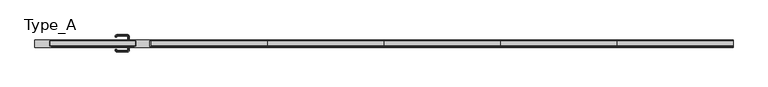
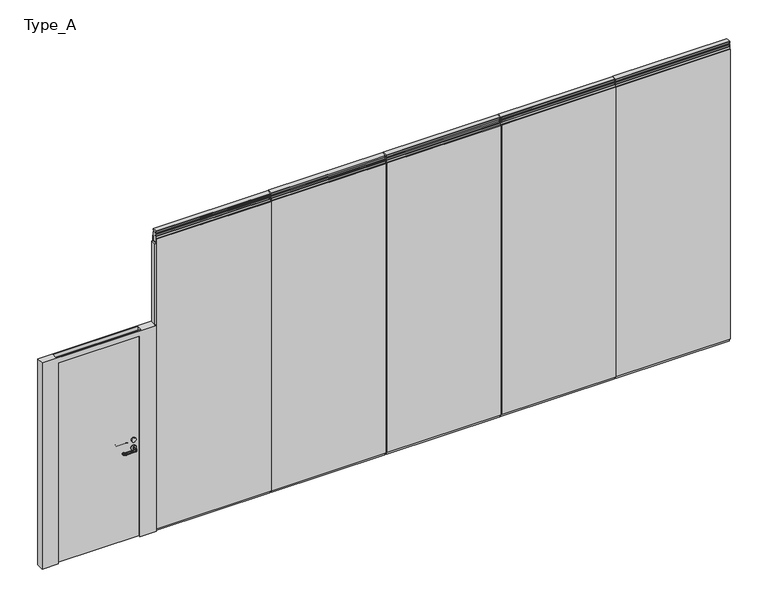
"""IFC4 building model written with IfcOpenShell, lengths in millimetres: proxy geometry, Planner Wall フラッシュパネル(Door) : Type_A."""

from ifc_helpers import new_model, si_unit, point, frame, frame_2d, origin, origin_with_axes, place, context, project, spatial, polyline, circle_curve, ellipse_curve, trimmed, segment, composite_curve, outline, extrude, faceted_brep, source, transform, mapped, element, save
from ifc_brep_helpers import plane_surface, cylinder_surface, revolved_surface, advanced_brep


def type_a_b0c5d881(model_context):
    return source(origin(), model_context, "Body", "SolidModel", [
        extrude(outline(polyline([(2226.3571429, 25.0), (1127.9285714, 25.0), (1127.9285714, 35.0), (2226.3571429, 35.0), (2226.3571429, 25.0)])), frame((0.0, 0.0, 25.0), z_axis=(0.0, 0.0, 1.0), x_axis=(1.0, 0.0, 0.0)), (0.0, 0.0, 1.0), 2950.0),
        extrude(outline(polyline([(2226.3571429, -35.0), (1127.9285714, -35.0), (1127.9285714, -25.0), (2226.3571429, -25.0), (2226.3571429, -35.0)])), frame((0.0, 0.0, 25.0), z_axis=(0.0, 0.0, 1.0), x_axis=(1.0, 0.0, 0.0)), (0.0, 0.0, 1.0), 2950.0),
        extrude(outline(polyline([(1127.9285714, -25.0), (1127.9285714, 25.0), (2220.8571429, 25.0), (2220.8571429, -25.0), (1127.9285714, -25.0)])), origin_with_axes(), (0.0, 0.0, 1.0), 65.0),
        extrude(outline(composite_curve([segment(polyline([(23.5, 3050.1000003), (26.5, 3047.1000003), (26.5, 3032.6)]), True, "CONTINUOUS"), segment(trimmed(circle_curve(frame_2d((25.0, 3032.6)), 1.5), [point((26.5, 3032.6))], [point((25.0, 3031.1))], False, "CARTESIAN"), True, "CONTINUOUS"), segment(polyline([(25.0, 3031.1), (9.0, 3031.1), (9.0, 3019.1000003), (23.5, 3019.1000003), (26.5, 3016.1000003), (26.5, 3001.5)]), True, "CONTINUOUS"), segment(trimmed(circle_curve(frame_2d((25.0, 3001.5)), 1.5), [point((26.5, 3001.5))], [point((25.0, 3000.0))], False, "CARTESIAN"), True, "CONTINUOUS"), segment(polyline([(25.0, 3000.0), (7.5, 3000.0), (7.5, 2994.5), (25.0, 2994.5), (25.0, 2935.0), (-25.0, 2935.0), (-25.0, 2994.5), (-7.5, 2994.5), (-7.5, 3000.0), (-25.0, 3000.0)]), True, "CONTINUOUS"), segment(trimmed(circle_curve(frame_2d((-25.0, 3001.5)), 1.5), [point((-25.0, 3000.0))], [point((-26.5, 3001.5))], False, "CARTESIAN"), True, "CONTINUOUS"), segment(polyline([(-26.5, 3001.5), (-26.5, 3016.1000003), (-23.5, 3019.1000003), (-9.0, 3019.1000003), (-9.0, 3031.1), (-25.0, 3031.1)]), True, "CONTINUOUS"), segment(trimmed(circle_curve(frame_2d((-25.0, 3032.6)), 1.5), [point((-25.0, 3031.1))], [point((-26.5, 3032.6))], False, "CARTESIAN"), True, "CONTINUOUS"), segment(polyline([(-26.5, 3032.6), (-26.5, 3047.1000003), (-23.5, 3050.1000003), (23.5, 3050.1000003)]), True, "CONTINUOUS")], self_intersect=False)), frame((1127.9285714, 0.0, 0.0), z_axis=(1.0, 0.0, 0.0), x_axis=(0.0, 1.0, 0.0)), (0.0, 0.0, 1.0), 1098.4285714),
        extrude(outline(polyline([(1114.4285714, -25.0), (1114.4285714, 25.0), (1127.9285714, 25.0), (1127.9285714, -25.0), (1114.4285714, -25.0)])), frame((0.0, 0.0, 53.0), z_axis=(0.0, 0.0, 1.0), x_axis=(1.0, 0.0, 0.0)), (0.0, 0.0, 1.0), 2869.0),
        extrude(outline(polyline([(3332.7857143, 25.0), (2234.3571429, 25.0), (2234.3571429, 35.0), (3332.7857143, 35.0), (3332.7857143, 25.0)])), frame((0.0, 0.0, 25.0), z_axis=(0.0, 0.0, 1.0), x_axis=(1.0, 0.0, 0.0)), (0.0, 0.0, 1.0), 2950.0),
        extrude(outline(polyline([(3332.7857143, -35.0), (2234.3571429, -35.0), (2234.3571429, -25.0), (3332.7857143, -25.0), (3332.7857143, -35.0)])), frame((0.0, 0.0, 25.0), z_axis=(0.0, 0.0, 1.0), x_axis=(1.0, 0.0, 0.0)), (0.0, 0.0, 1.0), 2950.0),
        extrude(outline(polyline([(2234.3571429, -25.0), (2234.3571429, 25.0), (3327.2857143, 25.0), (3327.2857143, -25.0), (2234.3571429, -25.0)])), origin_with_axes(), (0.0, 0.0, 1.0), 65.0),
        extrude(outline(composite_curve([segment(polyline([(23.5, 3050.1000003), (26.5, 3047.1000003), (26.5, 3032.6)]), True, "CONTINUOUS"), segment(trimmed(circle_curve(frame_2d((25.0, 3032.6)), 1.5), [point((26.5, 3032.6))], [point((25.0, 3031.1))], False, "CARTESIAN"), True, "CONTINUOUS"), segment(polyline([(25.0, 3031.1), (9.0, 3031.1), (9.0, 3019.1000003), (23.5, 3019.1000003), (26.5, 3016.1000003), (26.5, 3001.5)]), True, "CONTINUOUS"), segment(trimmed(circle_curve(frame_2d((25.0, 3001.5)), 1.5), [point((26.5, 3001.5))], [point((25.0, 3000.0))], False, "CARTESIAN"), True, "CONTINUOUS"), segment(polyline([(25.0, 3000.0), (7.5, 3000.0), (7.5, 2994.5), (25.0, 2994.5), (25.0, 2935.0), (-25.0, 2935.0), (-25.0, 2994.5), (-7.5, 2994.5), (-7.5, 3000.0), (-25.0, 3000.0)]), True, "CONTINUOUS"), segment(trimmed(circle_curve(frame_2d((-25.0, 3001.5)), 1.5), [point((-25.0, 3000.0))], [point((-26.5, 3001.5))], False, "CARTESIAN"), True, "CONTINUOUS"), segment(polyline([(-26.5, 3001.5), (-26.5, 3016.1000003), (-23.5, 3019.1000003), (-9.0, 3019.1000003), (-9.0, 3031.1), (-25.0, 3031.1)]), True, "CONTINUOUS"), segment(trimmed(circle_curve(frame_2d((-25.0, 3032.6)), 1.5), [point((-25.0, 3031.1))], [point((-26.5, 3032.6))], False, "CARTESIAN"), True, "CONTINUOUS"), segment(polyline([(-26.5, 3032.6), (-26.5, 3047.1000003), (-23.5, 3050.1000003), (23.5, 3050.1000003)]), True, "CONTINUOUS")], self_intersect=False)), frame((2234.3571429, 0.0, 0.0), z_axis=(1.0, 0.0, 0.0), x_axis=(0.0, 1.0, 0.0)), (0.0, 0.0, 1.0), 1098.4285714),
        extrude(outline(polyline([(2220.8571429, -25.0), (2220.8571429, 25.0), (2234.3571429, 25.0), (2234.3571429, -25.0), (2220.8571429, -25.0)])), frame((0.0, 0.0, 53.0), z_axis=(0.0, 0.0, 1.0), x_axis=(1.0, 0.0, 0.0)), (0.0, 0.0, 1.0), 2869.0),
        extrude(outline(polyline([(4439.2142857, 25.0), (3340.7857143, 25.0), (3340.7857143, 35.0), (4439.2142857, 35.0), (4439.2142857, 25.0)])), frame((0.0, 0.0, 25.0), z_axis=(0.0, 0.0, 1.0), x_axis=(1.0, 0.0, 0.0)), (0.0, 0.0, 1.0), 2950.0),
        extrude(outline(polyline([(4439.2142857, -35.0), (3340.7857143, -35.0), (3340.7857143, -25.0), (4439.2142857, -25.0), (4439.2142857, -35.0)])), frame((0.0, 0.0, 25.0), z_axis=(0.0, 0.0, 1.0), x_axis=(1.0, 0.0, 0.0)), (0.0, 0.0, 1.0), 2950.0),
        extrude(outline(polyline([(3340.7857143, -25.0), (3340.7857143, 25.0), (4433.7142857, 25.0), (4433.7142857, -25.0), (3340.7857143, -25.0)])), origin_with_axes(), (0.0, 0.0, 1.0), 65.0),
        extrude(outline(composite_curve([segment(polyline([(23.5, 3050.1000003), (26.5, 3047.1000003), (26.5, 3032.6)]), True, "CONTINUOUS"), segment(trimmed(circle_curve(frame_2d((25.0, 3032.6)), 1.5), [point((26.5, 3032.6))], [point((25.0, 3031.1))], False, "CARTESIAN"), True, "CONTINUOUS"), segment(polyline([(25.0, 3031.1), (9.0, 3031.1), (9.0, 3019.1000003), (23.5, 3019.1000003), (26.5, 3016.1000003), (26.5, 3001.5)]), True, "CONTINUOUS"), segment(trimmed(circle_curve(frame_2d((25.0, 3001.5)), 1.5), [point((26.5, 3001.5))], [point((25.0, 3000.0))], False, "CARTESIAN"), True, "CONTINUOUS"), segment(polyline([(25.0, 3000.0), (7.5, 3000.0), (7.5, 2994.5), (25.0, 2994.5), (25.0, 2935.0), (-25.0, 2935.0), (-25.0, 2994.5), (-7.5, 2994.5), (-7.5, 3000.0), (-25.0, 3000.0)]), True, "CONTINUOUS"), segment(trimmed(circle_curve(frame_2d((-25.0, 3001.5)), 1.5), [point((-25.0, 3000.0))], [point((-26.5, 3001.5))], False, "CARTESIAN"), True, "CONTINUOUS"), segment(polyline([(-26.5, 3001.5), (-26.5, 3016.1000003), (-23.5, 3019.1000003), (-9.0, 3019.1000003), (-9.0, 3031.1), (-25.0, 3031.1)]), True, "CONTINUOUS"), segment(trimmed(circle_curve(frame_2d((-25.0, 3032.6)), 1.5), [point((-25.0, 3031.1))], [point((-26.5, 3032.6))], False, "CARTESIAN"), True, "CONTINUOUS"), segment(polyline([(-26.5, 3032.6), (-26.5, 3047.1000003), (-23.5, 3050.1000003), (23.5, 3050.1000003)]), True, "CONTINUOUS")], self_intersect=False)), frame((3340.7857143, 0.0, 0.0), z_axis=(1.0, 0.0, 0.0), x_axis=(0.0, 1.0, 0.0)), (0.0, 0.0, 1.0), 1098.4285714),
        extrude(outline(polyline([(3327.2857143, -25.0), (3327.2857143, 25.0), (3340.7857143, 25.0), (3340.7857143, -25.0), (3327.2857143, -25.0)])), frame((0.0, 0.0, 53.0), z_axis=(0.0, 0.0, 1.0), x_axis=(1.0, 0.0, 0.0)), (0.0, 0.0, 1.0), 2869.0),
        extrude(outline(polyline([(5545.6428571, 25.0), (4447.2142857, 25.0), (4447.2142857, 35.0), (5545.6428571, 35.0), (5545.6428571, 25.0)])), frame((0.0, 0.0, 25.0), z_axis=(0.0, 0.0, 1.0), x_axis=(1.0, 0.0, 0.0)), (0.0, 0.0, 1.0), 2950.0),
        extrude(outline(polyline([(5545.6428571, -35.0), (4447.2142857, -35.0), (4447.2142857, -25.0), (5545.6428571, -25.0), (5545.6428571, -35.0)])), frame((0.0, 0.0, 25.0), z_axis=(0.0, 0.0, 1.0), x_axis=(1.0, 0.0, 0.0)), (0.0, 0.0, 1.0), 2950.0),
        extrude(outline(polyline([(4447.2142857, -25.0), (4447.2142857, 25.0), (5540.1428571, 25.0), (5540.1428571, -25.0), (4447.2142857, -25.0)])), origin_with_axes(), (0.0, 0.0, 1.0), 65.0),
        extrude(outline(composite_curve([segment(polyline([(23.5, 3050.1000003), (26.5, 3047.1000003), (26.5, 3032.6)]), True, "CONTINUOUS"), segment(trimmed(circle_curve(frame_2d((25.0, 3032.6)), 1.5), [point((26.5, 3032.6))], [point((25.0, 3031.1))], False, "CARTESIAN"), True, "CONTINUOUS"), segment(polyline([(25.0, 3031.1), (9.0, 3031.1), (9.0, 3019.1000003), (23.5, 3019.1000003), (26.5, 3016.1000003), (26.5, 3001.5)]), True, "CONTINUOUS"), segment(trimmed(circle_curve(frame_2d((25.0, 3001.5)), 1.5), [point((26.5, 3001.5))], [point((25.0, 3000.0))], False, "CARTESIAN"), True, "CONTINUOUS"), segment(polyline([(25.0, 3000.0), (7.5, 3000.0), (7.5, 2994.5), (25.0, 2994.5), (25.0, 2935.0), (-25.0, 2935.0), (-25.0, 2994.5), (-7.5, 2994.5), (-7.5, 3000.0), (-25.0, 3000.0)]), True, "CONTINUOUS"), segment(trimmed(circle_curve(frame_2d((-25.0, 3001.5)), 1.5), [point((-25.0, 3000.0))], [point((-26.5, 3001.5))], False, "CARTESIAN"), True, "CONTINUOUS"), segment(polyline([(-26.5, 3001.5), (-26.5, 3016.1000003), (-23.5, 3019.1000003), (-9.0, 3019.1000003), (-9.0, 3031.1), (-25.0, 3031.1)]), True, "CONTINUOUS"), segment(trimmed(circle_curve(frame_2d((-25.0, 3032.6)), 1.5), [point((-25.0, 3031.1))], [point((-26.5, 3032.6))], False, "CARTESIAN"), True, "CONTINUOUS"), segment(polyline([(-26.5, 3032.6), (-26.5, 3047.1000003), (-23.5, 3050.1000003), (23.5, 3050.1000003)]), True, "CONTINUOUS")], self_intersect=False)), frame((4447.2142857, 0.0, 0.0), z_axis=(1.0, 0.0, 0.0), x_axis=(0.0, 1.0, 0.0)), (0.0, 0.0, 1.0), 1098.4285714),
        extrude(outline(polyline([(4433.7142857, -25.0), (4433.7142857, 25.0), (4447.2142857, 25.0), (4447.2142857, -25.0), (4433.7142857, -25.0)])), frame((0.0, 0.0, 53.0), z_axis=(0.0, 0.0, 1.0), x_axis=(1.0, 0.0, 0.0)), (0.0, 0.0, 1.0), 2869.0),
        extrude(outline(polyline([(6652.0714286, 25.0), (5553.6428571, 25.0), (5553.6428571, 35.0), (6652.0714286, 35.0), (6652.0714286, 25.0)])), frame((0.0, 0.0, 25.0), z_axis=(0.0, 0.0, 1.0), x_axis=(1.0, 0.0, 0.0)), (0.0, 0.0, 1.0), 2950.0),
        extrude(outline(polyline([(6652.0714286, -35.0), (5553.6428571, -35.0), (5553.6428571, -25.0), (6652.0714286, -25.0), (6652.0714286, -35.0)])), frame((0.0, 0.0, 25.0), z_axis=(0.0, 0.0, 1.0), x_axis=(1.0, 0.0, 0.0)), (0.0, 0.0, 1.0), 2950.0),
        extrude(outline(polyline([(5553.6428571, -25.0), (5553.6428571, 25.0), (6646.5714286, 25.0), (6646.5714286, -25.0), (5553.6428571, -25.0)])), origin_with_axes(), (0.0, 0.0, 1.0), 65.0),
        extrude(outline(composite_curve([segment(polyline([(23.5, 3050.1000003), (26.5, 3047.1000003), (26.5, 3032.6)]), True, "CONTINUOUS"), segment(trimmed(circle_curve(frame_2d((25.0, 3032.6)), 1.5), [point((26.5, 3032.6))], [point((25.0, 3031.1))], False, "CARTESIAN"), True, "CONTINUOUS"), segment(polyline([(25.0, 3031.1), (9.0, 3031.1), (9.0, 3019.1000003), (23.5, 3019.1000003), (26.5, 3016.1000003), (26.5, 3001.5)]), True, "CONTINUOUS"), segment(trimmed(circle_curve(frame_2d((25.0, 3001.5)), 1.5), [point((26.5, 3001.5))], [point((25.0, 3000.0))], False, "CARTESIAN"), True, "CONTINUOUS"), segment(polyline([(25.0, 3000.0), (7.5, 3000.0), (7.5, 2994.5), (25.0, 2994.5), (25.0, 2935.0), (-25.0, 2935.0), (-25.0, 2994.5), (-7.5, 2994.5), (-7.5, 3000.0), (-25.0, 3000.0)]), True, "CONTINUOUS"), segment(trimmed(circle_curve(frame_2d((-25.0, 3001.5)), 1.5), [point((-25.0, 3000.0))], [point((-26.5, 3001.5))], False, "CARTESIAN"), True, "CONTINUOUS"), segment(polyline([(-26.5, 3001.5), (-26.5, 3016.1000003), (-23.5, 3019.1000003), (-9.0, 3019.1000003), (-9.0, 3031.1), (-25.0, 3031.1)]), True, "CONTINUOUS"), segment(trimmed(circle_curve(frame_2d((-25.0, 3032.6)), 1.5), [point((-25.0, 3031.1))], [point((-26.5, 3032.6))], False, "CARTESIAN"), True, "CONTINUOUS"), segment(polyline([(-26.5, 3032.6), (-26.5, 3047.1000003), (-23.5, 3050.1000003), (23.5, 3050.1000003)]), True, "CONTINUOUS")], self_intersect=False)), frame((5553.6428571, 0.0, 0.0), z_axis=(1.0, 0.0, 0.0), x_axis=(0.0, 1.0, 0.0)), (0.0, 0.0, 1.0), 1098.4285714),
        extrude(outline(polyline([(5540.1428571, -25.0), (5540.1428571, 25.0), (5553.6428571, 25.0), (5553.6428571, -25.0), (5540.1428571, -25.0)])), frame((0.0, 0.0, 53.0), z_axis=(0.0, 0.0, 1.0), x_axis=(1.0, 0.0, 0.0)), (0.0, 0.0, 1.0), 2869.0),
        extrude(outline(composite_curve([segment(trimmed(circle_curve(frame_2d((1000.0, 909.9285714)), 22.0), [point((1000.0, 931.9285714))], [point((1000.0, 887.9285714))], False, "CARTESIAN"), True, "CONTINUOUS"), segment(trimmed(circle_curve(frame_2d((1000.0, 909.9285714)), 22.0), [point((1000.0, 887.9285714))], [point((1000.0, 931.9285714))], False, "CARTESIAN"), True, "CONTINUOUS")], self_intersect=False)), frame((0.0, 23.5, 0.0), z_axis=(0.0, 1.0, 0.0), x_axis=(0.0, 0.0, 1.0)), (0.0, 0.0, 1.0), 10.0),
        extrude(outline(composite_curve([segment(trimmed(circle_curve(frame_2d((1000.0, 909.9285714)), 22.0), [point((1000.0, 931.9285714))], [point((1000.0, 887.9285714))], False, "CARTESIAN"), True, "CONTINUOUS"), segment(trimmed(circle_curve(frame_2d((1000.0, 909.9285714)), 22.0), [point((1000.0, 887.9285714))], [point((1000.0, 931.9285714))], False, "CARTESIAN"), True, "CONTINUOUS")], self_intersect=False)), frame((0.0, -26.5, 0.0), z_axis=(0.0, 1.0, 0.0), x_axis=(0.0, 0.0, 1.0)), (0.0, 0.0, 1.0), 10.0),
        advanced_brep(
        [(911.9285714, 33.5, 930.0), (907.9285714, 33.5, 930.0), (902.9285714, 33.5, 925.0), (902.9285714, 33.5, 915.0477623), (907.9285714, 33.5, 910.0477623), (911.9285714, 33.5, 910.0477623), (916.9285714, 33.5, 915.0477623), (916.9285714, 33.5, 925.0), (916.9285714, 68.5, 925.0), (911.9285714, 68.5, 930.0), (916.9285714, 68.5, 915.0477623), (911.9285714, 68.5, 910.0477623), (907.9285714, 68.5, 910.0477623), (899.9285714, 76.5, 910.0477623), (799.9285714, 76.5, 910.0477623), (791.9285714, 68.5, 910.0477623), (791.9285714, 63.5, 910.0477623), (787.9285714, 63.5, 910.0477623), (787.9285714, 68.5, 910.0477623), (799.9285714, 80.5, 910.0477623), (899.9285714, 80.5, 910.0477623), (902.9285714, 68.5, 915.0477623), (902.9285714, 68.5, 925.0), (907.9285714, 68.5, 930.0), (899.9285714, 80.5, 930.0), (799.9285714, 80.5, 930.0), (787.9285714, 68.5, 930.0), (787.9285714, 63.5, 930.0), (791.9285714, 63.5, 930.0), (791.9285714, 68.5, 930.0), (799.9285714, 76.5, 930.0), (899.9285714, 76.5, 930.0), (899.9285714, 85.5, 925.0), (899.9285714, 85.5, 915.0477623), (899.9285714, 71.5, 915.0477623), (899.9285714, 71.5, 925.0), (799.9285714, 85.5, 925.0), (799.9285714, 85.5, 915.0477623), (799.9285714, 71.5, 915.0477623), (799.9285714, 71.5, 925.0), (782.9285714, 68.5, 925.0), (782.9285714, 68.5, 915.0477623), (796.9285714, 68.5, 915.0477623), (796.9285714, 68.5, 925.0), (782.9285714, 63.5, 925.0), (782.9285714, 63.5, 915.0477623), (796.9285714, 63.5, 915.0477623), (796.9285714, 63.5, 925.0)],
        [
            (0, 1),
            (1, 2, circle_curve(frame((907.9285714, 33.5, 925.0), z_axis=(0.0, -1.0, 0.0), x_axis=(1.0, 0.0, 0.0)), 5.0)),
            (2, 3),
            (3, 4, circle_curve(frame((907.9285714, 33.5, 915.0477623), z_axis=(0.0, -1.0, 0.0), x_axis=(1.0, 0.0, 0.0)), 5.0)),
            (4, 5),
            (5, 6, circle_curve(frame((911.9285714, 33.5, 915.0477623), z_axis=(0.0, -1.0, 0.0), x_axis=(1.0, 0.0, 0.0)), 5.0)),
            (6, 7),
            (7, 0, circle_curve(frame((911.9285714, 33.5, 925.0), z_axis=(0.0, -1.0, 0.0), x_axis=(1.0, 0.0, 0.0)), 5.0)),
            (7, 8),
            (8, 9, circle_curve(frame((911.9285714, 68.5, 925.0), z_axis=(0.0, -1.0, 0.0), x_axis=(1.0, 0.0, 0.0)), 5.0)),
            (9, 0),
            (6, 10),
            (10, 8),
            (5, 11),
            (11, 10, circle_curve(frame((911.9285714, 68.5, 915.0477623), z_axis=(0.0, -1.0, 0.0), x_axis=(1.0, 0.0, 0.0)), 5.0)),
            (4, 12),
            (12, 13, circle_curve(frame((899.9285714, 68.5, 910.0477623), z_axis=(0.0, 0.0, 1.0), x_axis=(1.0, 0.0, 0.0)), 8.0)),
            (13, 14),
            (14, 15, circle_curve(frame((799.9285714, 68.5, 910.0477623), z_axis=(0.0, 0.0, 1.0), x_axis=(0.0, 1.0, 0.0)), 8.0)),
            (15, 16),
            (16, 17),
            (17, 18),
            (18, 19, circle_curve(frame((799.9285714, 68.5, 910.0477623), z_axis=(0.0, 0.0, -1.0), x_axis=(0.0, 1.0, 0.0)), 12.0)),
            (19, 20),
            (20, 11, circle_curve(frame((899.9285714, 68.5, 910.0477623), z_axis=(0.0, 0.0, -1.0), x_axis=(1.0, 0.0, 0.0)), 12.0)),
            (3, 21),
            (21, 12, circle_curve(frame((907.9285714, 68.5, 915.0477623), z_axis=(0.0, -1.0, 0.0), x_axis=(1.0, 0.0, 0.0)), 5.0)),
            (2, 22),
            (22, 21),
            (1, 23),
            (23, 22, circle_curve(frame((907.9285714, 68.5, 925.0), z_axis=(0.0, -1.0, 0.0), x_axis=(1.0, 0.0, 0.0)), 5.0)),
            (9, 24, circle_curve(frame((899.9285714, 68.5, 930.0), z_axis=(0.0, 0.0, 1.0), x_axis=(1.0, 0.0, 0.0)), 12.0)),
            (24, 25),
            (25, 26, circle_curve(frame((799.9285714, 68.5, 930.0), z_axis=(0.0, 0.0, 1.0), x_axis=(0.0, 1.0, 0.0)), 12.0)),
            (26, 27),
            (27, 28),
            (28, 29),
            (29, 30, circle_curve(frame((799.9285714, 68.5, 930.0), z_axis=(0.0, 0.0, -1.0), x_axis=(0.0, 1.0, 0.0)), 8.0)),
            (30, 31),
            (31, 23, circle_curve(frame((899.9285714, 68.5, 930.0), z_axis=(0.0, 0.0, -1.0), x_axis=(1.0, 0.0, 0.0)), 8.0)),
            (32, 24, circle_curve(frame((899.9285714, 80.5, 925.0), z_axis=(1.0, 0.0, 0.0), x_axis=(0.0, 1.0, 0.0)), 5.0)),
            (8, 32, circle_curve(frame((899.9285714, 68.5, 925.0), z_axis=(0.0, 0.0, 1.0), x_axis=(1.0, 0.0, 0.0)), 17.0)),
            (33, 32),
            (10, 33, circle_curve(frame((899.9285714, 68.5, 915.0477623), z_axis=(0.0, 0.0, 1.0), x_axis=(1.0, 0.0, 0.0)), 17.0)),
            (20, 33, circle_curve(frame((899.9285714, 80.5, 915.0477623), z_axis=(1.0, 0.0, 0.0), x_axis=(0.0, 1.0, 0.0)), 5.0)),
            (34, 13, circle_curve(frame((899.9285714, 76.5, 915.0477623), z_axis=(1.0, 0.0, 0.0), x_axis=(0.0, 1.0, 0.0)), 5.0)),
            (21, 34, circle_curve(frame((899.9285714, 68.5, 915.0477623), z_axis=(0.0, 0.0, 1.0), x_axis=(1.0, 0.0, 0.0)), 3.0)),
            (35, 34),
            (22, 35, circle_curve(frame((899.9285714, 68.5, 925.0), z_axis=(0.0, 0.0, 1.0), x_axis=(1.0, 0.0, 0.0)), 3.0)),
            (31, 35, circle_curve(frame((899.9285714, 76.5, 925.0), z_axis=(1.0, 0.0, 0.0), x_axis=(0.0, 1.0, 0.0)), 5.0)),
            (32, 36),
            (36, 25, circle_curve(frame((799.9285714, 80.5, 925.0), z_axis=(1.0, 0.0, 0.0), x_axis=(0.0, 1.0, 0.0)), 5.0)),
            (33, 37),
            (37, 36),
            (19, 37, circle_curve(frame((799.9285714, 80.5, 915.0477623), z_axis=(1.0, 0.0, 0.0), x_axis=(0.0, 1.0, 0.0)), 5.0)),
            (34, 38),
            (38, 14, circle_curve(frame((799.9285714, 76.5, 915.0477623), z_axis=(1.0, 0.0, 0.0), x_axis=(0.0, 1.0, 0.0)), 5.0)),
            (35, 39),
            (39, 38),
            (30, 39, circle_curve(frame((799.9285714, 76.5, 925.0), z_axis=(1.0, 0.0, 0.0), x_axis=(0.0, 1.0, 0.0)), 5.0)),
            (40, 26, circle_curve(frame((787.9285714, 68.5, 925.0), z_axis=(0.0, 1.0, 0.0), x_axis=(-1.0, 0.0, 0.0)), 5.0)),
            (36, 40, circle_curve(frame((799.9285714, 68.5, 925.0), z_axis=(0.0, 0.0, 1.0), x_axis=(0.0, 1.0, 0.0)), 17.0)),
            (41, 40),
            (37, 41, circle_curve(frame((799.9285714, 68.5, 915.0477623), z_axis=(0.0, 0.0, 1.0), x_axis=(0.0, 1.0, 0.0)), 17.0)),
            (18, 41, circle_curve(frame((787.9285714, 68.5, 915.0477623), z_axis=(0.0, 1.0, 0.0), x_axis=(-1.0, 0.0, 0.0)), 5.0)),
            (42, 15, circle_curve(frame((791.9285714, 68.5, 915.0477623), z_axis=(0.0, 1.0, 0.0), x_axis=(-1.0, 0.0, 0.0)), 5.0)),
            (38, 42, circle_curve(frame((799.9285714, 68.5, 915.0477623), z_axis=(0.0, 0.0, 1.0), x_axis=(0.0, 1.0, 0.0)), 3.0)),
            (43, 42),
            (39, 43, circle_curve(frame((799.9285714, 68.5, 925.0), z_axis=(0.0, 0.0, 1.0), x_axis=(0.0, 1.0, 0.0)), 3.0)),
            (29, 43, circle_curve(frame((791.9285714, 68.5, 925.0), z_axis=(0.0, 1.0, 0.0), x_axis=(-1.0, 0.0, 0.0)), 5.0)),
            (27, 44, circle_curve(frame((787.9285714, 63.5, 925.0), z_axis=(0.0, -1.0, 0.0), x_axis=(-1.0, 0.0, 0.0)), 5.0)),
            (44, 45),
            (45, 17, circle_curve(frame((787.9285714, 63.5, 915.0477623), z_axis=(0.0, -1.0, 0.0), x_axis=(-1.0, 0.0, 0.0)), 5.0)),
            (16, 46, circle_curve(frame((791.9285714, 63.5, 915.0477623), z_axis=(0.0, -1.0, 0.0), x_axis=(-1.0, 0.0, 0.0)), 5.0)),
            (46, 47),
            (47, 28, circle_curve(frame((791.9285714, 63.5, 925.0), z_axis=(0.0, -1.0, 0.0), x_axis=(-1.0, 0.0, 0.0)), 5.0)),
            (40, 44),
            (41, 45),
            (42, 46),
            (43, 47),
        ],
        [
            plane_surface(frame((920.1266105, 33.5, 920.0), z_axis=(0.0, -1.0, 0.0), x_axis=(0.0, 0.0, 1.0))),
            cylinder_surface(frame((911.9285714, 33.5, 925.0), z_axis=(0.0, -1.0, 0.0), x_axis=(1.0, 0.0, 0.0)), 5.0),
            plane_surface(frame((916.9285714, 33.5, 925.0), z_axis=(1.0, 0.0, 0.0), x_axis=(0.0, 1.0, 0.0))),
            cylinder_surface(frame((911.9285714, 33.5, 915.0477623), z_axis=(0.0, -1.0, 0.0), x_axis=(1.0, 0.0, 0.0)), 5.0),
            plane_surface(frame((911.9285714, 33.5, 910.0477623), z_axis=(0.0, 0.0, -1.0), x_axis=(0.0, 1.0, 0.0))),
            cylinder_surface(frame((907.9285714, 33.5, 915.0477623), z_axis=(0.0, -1.0, 0.0), x_axis=(1.0, 0.0, 0.0)), 5.0),
            plane_surface(frame((902.9285714, 33.5, 915.0477623), z_axis=(-1.0, 0.0, 0.0), x_axis=(0.0, 1.0, 0.0))),
            cylinder_surface(frame((907.9285714, 33.5, 925.0), z_axis=(0.0, -1.0, 0.0), x_axis=(1.0, 0.0, 0.0)), 5.0),
            plane_surface(frame((907.9285714, 33.5, 930.0), z_axis=(0.0, 0.0, 1.0), x_axis=(0.0, 1.0, 0.0))),
            revolved_surface(trimmed(ellipse_curve(frame((911.9285714, 68.5, 925.0), z_axis=(0.0, 1.0, 0.0), x_axis=(1.0, 0.0, 0.0)), 5.0, 5.0), [point((911.9285714, 68.5, 930.0))], [point((916.9285714, 68.5, 925.0))], True, "CARTESIAN"), (899.9285714, 68.5, 920.0), (0.0, 0.0, -1.0)),
            cylinder_surface(frame((899.9285714, 68.5, 920.0), z_axis=(0.0, 0.0, -1.0), x_axis=(1.0, 0.0, 0.0)), 17.0),
            revolved_surface(trimmed(ellipse_curve(frame((911.9285714, 68.5, 915.0477623), z_axis=(0.0, 1.0, 0.0), x_axis=(1.0, 0.0, 0.0)), 5.0, 5.0), [point((916.9285714, 68.5, 915.0477623))], [point((911.9285714, 68.5, 910.0477623))], True, "CARTESIAN"), (899.9285714, 68.5, 920.0), (0.0, 0.0, -1.0)),
            revolved_surface(trimmed(ellipse_curve(frame((907.9285714, 68.5, 915.0477623), z_axis=(0.0, 1.0, 0.0), x_axis=(1.0, 0.0, 0.0)), 5.0, 5.0), [point((907.9285714, 68.5, 910.0477623))], [point((902.9285714, 68.5, 915.0477623))], True, "CARTESIAN"), (899.9285714, 68.5, 920.0), (0.0, 0.0, -1.0)),
            revolved_surface(polyline([(902.9285714, 68.5, 915.0477623), (902.9285714, 68.5, 925.0)]), (899.9285714, 68.5, 920.0), (0.0, 0.0, -1.0)),
            revolved_surface(trimmed(ellipse_curve(frame((907.9285714, 68.5, 925.0), z_axis=(0.0, 1.0, 0.0), x_axis=(1.0, 0.0, 0.0)), 5.0, 5.0), [point((902.9285714, 68.5, 925.0))], [point((907.9285714, 68.5, 930.0))], True, "CARTESIAN"), (899.9285714, 68.5, 920.0), (0.0, 0.0, -1.0)),
            cylinder_surface(frame((899.9285714, 80.5, 925.0), z_axis=(1.0, 0.0, 0.0), x_axis=(0.0, 1.0, 0.0)), 5.0),
            plane_surface(frame((899.9285714, 85.5, 925.0), z_axis=(0.0, 1.0, 0.0), x_axis=(-1.0, 0.0, 0.0))),
            cylinder_surface(frame((899.9285714, 80.5, 915.0477623), z_axis=(1.0, 0.0, 0.0), x_axis=(0.0, 1.0, 0.0)), 5.0),
            cylinder_surface(frame((899.9285714, 76.5, 915.0477623), z_axis=(1.0, 0.0, 0.0), x_axis=(0.0, 1.0, 0.0)), 5.0),
            plane_surface(frame((899.9285714, 71.5, 915.0477623), z_axis=(0.0, -1.0, 0.0), x_axis=(-1.0, 0.0, 0.0))),
            cylinder_surface(frame((899.9285714, 76.5, 925.0), z_axis=(1.0, 0.0, 0.0), x_axis=(0.0, 1.0, 0.0)), 5.0),
            revolved_surface(trimmed(ellipse_curve(frame((799.9285714, 80.5, 925.0), z_axis=(-1.0, 0.0, 0.0), x_axis=(0.0, 1.0, 0.0)), 5.0, 5.0), [point((799.9285714, 80.5, 930.0))], [point((799.9285714, 85.5, 925.0))], True, "CARTESIAN"), (799.9285714, 68.5, 920.0), (0.0, 0.0, -1.0)),
            cylinder_surface(frame((799.9285714, 68.5, 920.0), z_axis=(0.0, 0.0, -1.0), x_axis=(0.0, 1.0, 0.0)), 17.0),
            revolved_surface(trimmed(ellipse_curve(frame((799.9285714, 80.5, 915.0477623), z_axis=(-1.0, 0.0, 0.0), x_axis=(0.0, 1.0, 0.0)), 5.0, 5.0), [point((799.9285714, 85.5, 915.0477623))], [point((799.9285714, 80.5, 910.0477623))], True, "CARTESIAN"), (799.9285714, 68.5, 920.0), (0.0, 0.0, -1.0)),
            revolved_surface(trimmed(ellipse_curve(frame((799.9285714, 76.5, 915.0477623), z_axis=(-1.0, 0.0, 0.0), x_axis=(0.0, 1.0, 0.0)), 5.0, 5.0), [point((799.9285714, 76.5, 910.0477623))], [point((799.9285714, 71.5, 915.0477623))], True, "CARTESIAN"), (799.9285714, 68.5, 920.0), (0.0, 0.0, -1.0)),
            revolved_surface(polyline([(799.9285714, 71.5, 915.0477623), (799.9285714, 71.5, 925.0)]), (799.9285714, 68.5, 920.0), (0.0, 0.0, -1.0)),
            revolved_surface(trimmed(ellipse_curve(frame((799.9285714, 76.5, 925.0), z_axis=(-1.0, 0.0, 0.0), x_axis=(0.0, 1.0, 0.0)), 5.0, 5.0), [point((799.9285714, 71.5, 925.0))], [point((799.9285714, 76.5, 930.0))], True, "CARTESIAN"), (799.9285714, 68.5, 920.0), (0.0, 0.0, -1.0)),
            plane_surface(frame((800.1266105, 63.5, 920.0), z_axis=(0.0, -1.0, 0.0), x_axis=(0.0, 0.0, -1.0))),
            cylinder_surface(frame((787.9285714, 68.5, 925.0), z_axis=(0.0, 1.0, 0.0), x_axis=(-1.0, 0.0, 0.0)), 5.0),
            plane_surface(frame((782.9285714, 68.5, 925.0), z_axis=(-1.0, 0.0, 0.0), x_axis=(0.0, -1.0, 0.0))),
            cylinder_surface(frame((787.9285714, 68.5, 915.0477623), z_axis=(0.0, 1.0, 0.0), x_axis=(-1.0, 0.0, 0.0)), 5.0),
            cylinder_surface(frame((791.9285714, 68.5, 915.0477623), z_axis=(0.0, 1.0, 0.0), x_axis=(-1.0, 0.0, 0.0)), 5.0),
            plane_surface(frame((796.9285714, 68.5, 915.0477623), z_axis=(1.0, 0.0, 0.0), x_axis=(0.0, -1.0, 0.0))),
            cylinder_surface(frame((791.9285714, 68.5, 925.0), z_axis=(0.0, 1.0, 0.0), x_axis=(-1.0, 0.0, 0.0)), 5.0),
        ],
        [
            (0, [[1, 2, 3, 4, 5, 6, 7, 8]]),
            (1, [[9, 10, 11, -8]]),
            (2, [[12, 13, -9, -7]]),
            (3, [[14, 15, -12, -6]]),
            (4, [[16, 17, 18, 19, 20, 21, 22, 23, 24, 25, -14, -5]]),
            (5, [[26, 27, -16, -4]]),
            (6, [[28, 29, -26, -3]]),
            (7, [[30, 31, -28, -2]]),
            (8, [[-11, 32, 33, 34, 35, 36, 37, 38, 39, 40, -30, -1]]),
            (9, [[41, -32, -10, 42]]),
            (10, [[43, -42, -13, 44]]),
            (11, [[45, -44, -15, -25]]),
            (12, [[46, -17, -27, 47]]),
            (13, [[48, -47, -29, 49]]),
            (14, [[50, -49, -31, -40]]),
            (15, [[51, 52, -33, -41]]),
            (16, [[53, 54, -51, -43]]),
            (17, [[-24, 55, -53, -45]]),
            (18, [[56, 57, -18, -46]]),
            (19, [[58, 59, -56, -48]]),
            (20, [[-39, 60, -58, -50]]),
            (21, [[61, -34, -52, 62]]),
            (22, [[63, -62, -54, 64]]),
            (23, [[65, -64, -55, -23]]),
            (24, [[66, -19, -57, 67]]),
            (25, [[68, -67, -59, 69]]),
            (26, [[70, -69, -60, -38]]),
            (27, [[71, 72, 73, -21, 74, 75, 76, -36]]),
            (28, [[77, -71, -35, -61]]),
            (29, [[78, -72, -77, -63]]),
            (30, [[-22, -73, -78, -65]]),
            (31, [[79, -74, -20, -66]]),
            (32, [[80, -75, -79, -68]]),
            (33, [[-37, -76, -80, -70]]),
        ],
    ),
        advanced_brep(
        [(907.9285714, -26.5, 910.0), (902.9285714, -26.5, 915.0), (902.9285714, -26.5, 925.0), (907.9285714, -26.5, 930.0), (911.9285714, -26.5, 930.0), (916.9285714, -26.5, 925.0), (916.9285714, -26.5, 915.0), (911.9285714, -26.5, 910.0), (911.9285714, -61.5, 910.0), (899.9285714, -73.5, 910.0), (799.9285714, -73.5, 910.0), (787.9285714, -61.5, 910.0), (787.9285714, -56.5, 910.0), (791.9285714, -56.5, 910.0), (791.9285714, -61.5, 910.0), (799.9285714, -69.5, 910.0), (899.9285714, -69.5, 910.0), (907.9285714, -61.5, 910.0), (916.9285714, -61.5, 915.0), (916.9285714, -61.5, 925.0), (911.9285714, -61.5, 930.0), (907.9285714, -61.5, 930.0), (899.9285714, -69.5, 930.0), (799.9285714, -69.5, 930.0), (791.9285714, -61.5, 930.0), (791.9285714, -56.5, 930.0), (787.9285714, -56.5, 930.0), (787.9285714, -61.5, 930.0), (799.9285714, -73.5, 930.0), (899.9285714, -73.5, 930.0), (902.9285714, -61.5, 925.0), (902.9285714, -61.5, 915.0), (899.9285714, -78.5, 915.0), (899.9285714, -78.5, 925.0), (899.9285714, -64.5, 925.0), (899.9285714, -64.5, 915.0), (799.9285714, -78.5, 915.0), (799.9285714, -78.5, 925.0), (799.9285714, -64.5, 925.0), (799.9285714, -64.5, 915.0), (782.9285714, -61.5, 915.0), (782.9285714, -61.5, 925.0), (796.9285714, -61.5, 925.0), (796.9285714, -61.5, 915.0), (782.9285714, -56.5, 915.0), (782.9285714, -56.5, 925.0), (796.9285714, -56.5, 925.0), (796.9285714, -56.5, 915.0)],
        [
            (0, 1, circle_curve(frame((907.9285714, -26.5, 915.0), z_axis=(0.0, 1.0, 0.0), x_axis=(-1.0, 0.0, 0.0)), 5.0)),
            (1, 2),
            (2, 3, circle_curve(frame((907.9285714, -26.5, 925.0), z_axis=(0.0, 1.0, 0.0), x_axis=(-1.0, 0.0, 0.0)), 5.0)),
            (3, 4),
            (4, 5, circle_curve(frame((911.9285714, -26.5, 925.0), z_axis=(0.0, 1.0, 0.0), x_axis=(-1.0, 0.0, 0.0)), 5.0)),
            (5, 6),
            (6, 7, circle_curve(frame((911.9285714, -26.5, 915.0), z_axis=(0.0, 1.0, 0.0), x_axis=(-1.0, 0.0, 0.0)), 5.0)),
            (7, 0),
            (7, 8),
            (8, 9, circle_curve(frame((899.9285714, -61.5, 910.0), z_axis=(0.0, 0.0, -1.0), x_axis=(1.0, 0.0, 0.0)), 12.0)),
            (9, 10),
            (10, 11, circle_curve(frame((799.9285714, -61.5, 910.0), z_axis=(0.0, 0.0, -1.0), x_axis=(0.0, -1.0, 0.0)), 12.0)),
            (11, 12),
            (12, 13),
            (13, 14),
            (14, 15, circle_curve(frame((799.9285714, -61.5, 910.0), z_axis=(0.0, 0.0, 1.0), x_axis=(0.0, -1.0, 0.0)), 8.0)),
            (15, 16),
            (16, 17, circle_curve(frame((899.9285714, -61.5, 910.0), z_axis=(0.0, 0.0, 1.0), x_axis=(1.0, 0.0, 0.0)), 8.0)),
            (17, 0),
            (6, 18),
            (18, 8, circle_curve(frame((911.9285714, -61.5, 915.0), z_axis=(0.0, 1.0, 0.0), x_axis=(-1.0, 0.0, 0.0)), 5.0)),
            (5, 19),
            (19, 18),
            (4, 20),
            (20, 19, circle_curve(frame((911.9285714, -61.5, 925.0), z_axis=(0.0, 1.0, 0.0), x_axis=(-1.0, 0.0, 0.0)), 5.0)),
            (3, 21),
            (21, 22, circle_curve(frame((899.9285714, -61.5, 930.0), z_axis=(0.0, 0.0, -1.0), x_axis=(1.0, 0.0, 0.0)), 8.0)),
            (22, 23),
            (23, 24, circle_curve(frame((799.9285714, -61.5, 930.0), z_axis=(0.0, 0.0, -1.0), x_axis=(0.0, -1.0, 0.0)), 8.0)),
            (24, 25),
            (25, 26),
            (26, 27),
            (27, 28, circle_curve(frame((799.9285714, -61.5, 930.0), z_axis=(0.0, 0.0, 1.0), x_axis=(0.0, -1.0, 0.0)), 12.0)),
            (28, 29),
            (29, 20, circle_curve(frame((899.9285714, -61.5, 930.0), z_axis=(0.0, 0.0, 1.0), x_axis=(1.0, 0.0, 0.0)), 12.0)),
            (2, 30),
            (30, 21, circle_curve(frame((907.9285714, -61.5, 925.0), z_axis=(0.0, 1.0, 0.0), x_axis=(-1.0, 0.0, 0.0)), 5.0)),
            (1, 31),
            (31, 30),
            (17, 31, circle_curve(frame((907.9285714, -61.5, 915.0), z_axis=(0.0, 1.0, 0.0), x_axis=(-1.0, 0.0, 0.0)), 5.0)),
            (32, 9, circle_curve(frame((899.9285714, -73.5, 915.0), z_axis=(1.0, 0.0, 0.0), x_axis=(0.0, 1.0, 0.0)), 5.0)),
            (18, 32, circle_curve(frame((899.9285714, -61.5, 915.0), z_axis=(0.0, 0.0, -1.0), x_axis=(1.0, 0.0, 0.0)), 17.0)),
            (33, 32),
            (19, 33, circle_curve(frame((899.9285714, -61.5, 925.0), z_axis=(0.0, 0.0, -1.0), x_axis=(1.0, 0.0, 0.0)), 17.0)),
            (29, 33, circle_curve(frame((899.9285714, -73.5, 925.0), z_axis=(1.0, 0.0, 0.0), x_axis=(0.0, 1.0, 0.0)), 5.0)),
            (34, 22, circle_curve(frame((899.9285714, -69.5, 925.0), z_axis=(1.0, 0.0, 0.0), x_axis=(0.0, 1.0, 0.0)), 5.0)),
            (30, 34, circle_curve(frame((899.9285714, -61.5, 925.0), z_axis=(0.0, 0.0, -1.0), x_axis=(1.0, 0.0, 0.0)), 3.0)),
            (35, 34),
            (31, 35, circle_curve(frame((899.9285714, -61.5, 915.0), z_axis=(0.0, 0.0, -1.0), x_axis=(1.0, 0.0, 0.0)), 3.0)),
            (16, 35, circle_curve(frame((899.9285714, -69.5, 915.0), z_axis=(1.0, 0.0, 0.0), x_axis=(0.0, 1.0, 0.0)), 5.0)),
            (32, 36),
            (36, 10, circle_curve(frame((799.9285714, -73.5, 915.0), z_axis=(1.0, 0.0, 0.0), x_axis=(0.0, 1.0, 0.0)), 5.0)),
            (33, 37),
            (37, 36),
            (28, 37, circle_curve(frame((799.9285714, -73.5, 925.0), z_axis=(1.0, 0.0, 0.0), x_axis=(0.0, 1.0, 0.0)), 5.0)),
            (34, 38),
            (38, 23, circle_curve(frame((799.9285714, -69.5, 925.0), z_axis=(1.0, 0.0, 0.0), x_axis=(0.0, 1.0, 0.0)), 5.0)),
            (35, 39),
            (39, 38),
            (15, 39, circle_curve(frame((799.9285714, -69.5, 915.0), z_axis=(1.0, 0.0, 0.0), x_axis=(0.0, 1.0, 0.0)), 5.0)),
            (40, 11, circle_curve(frame((787.9285714, -61.5, 915.0), z_axis=(0.0, -1.0, 0.0), x_axis=(1.0, 0.0, 0.0)), 5.0)),
            (36, 40, circle_curve(frame((799.9285714, -61.5, 915.0), z_axis=(0.0, 0.0, -1.0), x_axis=(0.0, -1.0, 0.0)), 17.0)),
            (41, 40),
            (37, 41, circle_curve(frame((799.9285714, -61.5, 925.0), z_axis=(0.0, 0.0, -1.0), x_axis=(0.0, -1.0, 0.0)), 17.0)),
            (27, 41, circle_curve(frame((787.9285714, -61.5, 925.0), z_axis=(0.0, -1.0, 0.0), x_axis=(1.0, 0.0, 0.0)), 5.0)),
            (42, 24, circle_curve(frame((791.9285714, -61.5, 925.0), z_axis=(0.0, -1.0, 0.0), x_axis=(1.0, 0.0, 0.0)), 5.0)),
            (38, 42, circle_curve(frame((799.9285714, -61.5, 925.0), z_axis=(0.0, 0.0, -1.0), x_axis=(0.0, -1.0, 0.0)), 3.0)),
            (43, 42),
            (39, 43, circle_curve(frame((799.9285714, -61.5, 915.0), z_axis=(0.0, 0.0, -1.0), x_axis=(0.0, -1.0, 0.0)), 3.0)),
            (14, 43, circle_curve(frame((791.9285714, -61.5, 915.0), z_axis=(0.0, -1.0, 0.0), x_axis=(1.0, 0.0, 0.0)), 5.0)),
            (12, 44, circle_curve(frame((787.9285714, -56.5, 915.0), z_axis=(0.0, 1.0, 0.0), x_axis=(1.0, 0.0, 0.0)), 5.0)),
            (44, 45),
            (45, 26, circle_curve(frame((787.9285714, -56.5, 925.0), z_axis=(0.0, 1.0, 0.0), x_axis=(1.0, 0.0, 0.0)), 5.0)),
            (25, 46, circle_curve(frame((791.9285714, -56.5, 925.0), z_axis=(0.0, 1.0, 0.0), x_axis=(1.0, 0.0, 0.0)), 5.0)),
            (46, 47),
            (47, 13, circle_curve(frame((791.9285714, -56.5, 915.0), z_axis=(0.0, 1.0, 0.0), x_axis=(1.0, 0.0, 0.0)), 5.0)),
            (40, 44),
            (41, 45),
            (42, 46),
            (43, 47),
        ],
        [
            plane_surface(frame((920.1266105, -26.5, 920.0), z_axis=(0.0, 1.0, 0.0), x_axis=(0.0, 0.0, -1.0))),
            plane_surface(frame((907.9285714, -26.5, 910.0), z_axis=(0.0, 0.0, -1.0), x_axis=(0.0, -1.0, 0.0))),
            cylinder_surface(frame((911.9285714, -26.5, 915.0), z_axis=(0.0, 1.0, 0.0), x_axis=(-1.0, 0.0, 0.0)), 5.0),
            plane_surface(frame((916.9285714, -26.5, 915.0), z_axis=(1.0, 0.0, 0.0), x_axis=(0.0, -1.0, 0.0))),
            cylinder_surface(frame((911.9285714, -26.5, 925.0), z_axis=(0.0, 1.0, 0.0), x_axis=(-1.0, 0.0, 0.0)), 5.0),
            plane_surface(frame((911.9285714, -26.5, 930.0), z_axis=(0.0, 0.0, 1.0), x_axis=(0.0, -1.0, 0.0))),
            cylinder_surface(frame((907.9285714, -26.5, 925.0), z_axis=(0.0, 1.0, 0.0), x_axis=(-1.0, 0.0, 0.0)), 5.0),
            plane_surface(frame((902.9285714, -26.5, 925.0), z_axis=(-1.0, 0.0, 0.0), x_axis=(0.0, -1.0, 0.0))),
            cylinder_surface(frame((907.9285714, -26.5, 915.0), z_axis=(0.0, 1.0, 0.0), x_axis=(-1.0, 0.0, 0.0)), 5.0),
            revolved_surface(trimmed(ellipse_curve(frame((911.9285714, -61.5, 915.0), z_axis=(0.0, -1.0, 0.0), x_axis=(-1.0, 0.0, 0.0)), 5.0, 5.0), [point((911.9285714, -61.5, 910.0))], [point((916.9285714, -61.5, 915.0))], True, "CARTESIAN"), (899.9285714, -61.5, 920.0), (0.0, 0.0, 1.0)),
            cylinder_surface(frame((899.9285714, -61.5, 920.0), z_axis=(0.0, 0.0, 1.0), x_axis=(1.0, 0.0, 0.0)), 17.0),
            revolved_surface(trimmed(ellipse_curve(frame((911.9285714, -61.5, 925.0), z_axis=(0.0, -1.0, 0.0), x_axis=(-1.0, 0.0, 0.0)), 5.0, 5.0), [point((916.9285714, -61.5, 925.0))], [point((911.9285714, -61.5, 930.0))], True, "CARTESIAN"), (899.9285714, -61.5, 920.0), (0.0, 0.0, 1.0)),
            revolved_surface(trimmed(ellipse_curve(frame((907.9285714, -61.5, 925.0), z_axis=(0.0, -1.0, 0.0), x_axis=(-1.0, 0.0, 0.0)), 5.0, 5.0), [point((907.9285714, -61.5, 930.0))], [point((902.9285714, -61.5, 925.0))], True, "CARTESIAN"), (899.9285714, -61.5, 920.0), (0.0, 0.0, 1.0)),
            revolved_surface(polyline([(902.9285714, -61.5, 925.0), (902.9285714, -61.5, 915.0)]), (899.9285714, -61.5, 920.0), (0.0, 0.0, 1.0)),
            revolved_surface(trimmed(ellipse_curve(frame((907.9285714, -61.5, 915.0), z_axis=(0.0, -1.0, 0.0), x_axis=(-1.0, 0.0, 0.0)), 5.0, 5.0), [point((902.9285714, -61.5, 915.0))], [point((907.9285714, -61.5, 910.0))], True, "CARTESIAN"), (899.9285714, -61.5, 920.0), (0.0, 0.0, 1.0)),
            cylinder_surface(frame((899.9285714, -73.5, 915.0), z_axis=(1.0, 0.0, 0.0), x_axis=(0.0, 1.0, 0.0)), 5.0),
            plane_surface(frame((899.9285714, -78.5, 915.0), z_axis=(0.0, -1.0, 0.0), x_axis=(-1.0, 0.0, 0.0))),
            cylinder_surface(frame((899.9285714, -73.5, 925.0), z_axis=(1.0, 0.0, 0.0), x_axis=(0.0, 1.0, 0.0)), 5.0),
            cylinder_surface(frame((899.9285714, -69.5, 925.0), z_axis=(1.0, 0.0, 0.0), x_axis=(0.0, 1.0, 0.0)), 5.0),
            plane_surface(frame((899.9285714, -64.5, 925.0), z_axis=(0.0, 1.0, 0.0), x_axis=(-1.0, 0.0, 0.0))),
            cylinder_surface(frame((899.9285714, -69.5, 915.0), z_axis=(1.0, 0.0, 0.0), x_axis=(0.0, 1.0, 0.0)), 5.0),
            revolved_surface(trimmed(ellipse_curve(frame((799.9285714, -73.5, 915.0), z_axis=(-1.0, 0.0, 0.0), x_axis=(0.0, 1.0, 0.0)), 5.0, 5.0), [point((799.9285714, -73.5, 910.0))], [point((799.9285714, -78.5, 915.0))], True, "CARTESIAN"), (799.9285714, -61.5, 920.0), (0.0, 0.0, 1.0)),
            cylinder_surface(frame((799.9285714, -61.5, 920.0), z_axis=(0.0, 0.0, 1.0), x_axis=(0.0, -1.0, 0.0)), 17.0),
            revolved_surface(trimmed(ellipse_curve(frame((799.9285714, -73.5, 925.0), z_axis=(-1.0, 0.0, 0.0), x_axis=(0.0, 1.0, 0.0)), 5.0, 5.0), [point((799.9285714, -78.5, 925.0))], [point((799.9285714, -73.5, 930.0))], True, "CARTESIAN"), (799.9285714, -61.5, 920.0), (0.0, 0.0, 1.0)),
            revolved_surface(trimmed(ellipse_curve(frame((799.9285714, -69.5, 925.0), z_axis=(-1.0, 0.0, 0.0), x_axis=(0.0, 1.0, 0.0)), 5.0, 5.0), [point((799.9285714, -69.5, 930.0))], [point((799.9285714, -64.5, 925.0))], True, "CARTESIAN"), (799.9285714, -61.5, 920.0), (0.0, 0.0, 1.0)),
            revolved_surface(polyline([(799.9285714, -64.5, 925.0), (799.9285714, -64.5, 915.0)]), (799.9285714, -61.5, 920.0), (0.0, 0.0, 1.0)),
            revolved_surface(trimmed(ellipse_curve(frame((799.9285714, -69.5, 915.0), z_axis=(-1.0, 0.0, 0.0), x_axis=(0.0, 1.0, 0.0)), 5.0, 5.0), [point((799.9285714, -64.5, 915.0))], [point((799.9285714, -69.5, 910.0))], True, "CARTESIAN"), (799.9285714, -61.5, 920.0), (0.0, 0.0, 1.0)),
            plane_surface(frame((800.1266105, -56.5, 920.0), z_axis=(0.0, 1.0, 0.0), x_axis=(0.0, 0.0, 1.0))),
            cylinder_surface(frame((787.9285714, -61.5, 915.0), z_axis=(0.0, -1.0, 0.0), x_axis=(1.0, 0.0, 0.0)), 5.0),
            plane_surface(frame((782.9285714, -61.5, 915.0), z_axis=(-1.0, 0.0, 0.0), x_axis=(0.0, 1.0, 0.0))),
            cylinder_surface(frame((787.9285714, -61.5, 925.0), z_axis=(0.0, -1.0, 0.0), x_axis=(1.0, 0.0, 0.0)), 5.0),
            cylinder_surface(frame((791.9285714, -61.5, 925.0), z_axis=(0.0, -1.0, 0.0), x_axis=(1.0, 0.0, 0.0)), 5.0),
            plane_surface(frame((796.9285714, -61.5, 925.0), z_axis=(1.0, 0.0, 0.0), x_axis=(0.0, 1.0, 0.0))),
            cylinder_surface(frame((791.9285714, -61.5, 915.0), z_axis=(0.0, -1.0, 0.0), x_axis=(1.0, 0.0, 0.0)), 5.0),
        ],
        [
            (0, [[1, 2, 3, 4, 5, 6, 7, 8]]),
            (1, [[9, 10, 11, 12, 13, 14, 15, 16, 17, 18, 19, -8]]),
            (2, [[20, 21, -9, -7]]),
            (3, [[22, 23, -20, -6]]),
            (4, [[24, 25, -22, -5]]),
            (5, [[26, 27, 28, 29, 30, 31, 32, 33, 34, 35, -24, -4]]),
            (6, [[36, 37, -26, -3]]),
            (7, [[38, 39, -36, -2]]),
            (8, [[-19, 40, -38, -1]]),
            (9, [[41, -10, -21, 42]]),
            (10, [[43, -42, -23, 44]]),
            (11, [[45, -44, -25, -35]]),
            (12, [[46, -27, -37, 47]]),
            (13, [[48, -47, -39, 49]]),
            (14, [[50, -49, -40, -18]]),
            (15, [[51, 52, -11, -41]]),
            (16, [[53, 54, -51, -43]]),
            (17, [[-34, 55, -53, -45]]),
            (18, [[56, 57, -28, -46]]),
            (19, [[58, 59, -56, -48]]),
            (20, [[-17, 60, -58, -50]]),
            (21, [[61, -12, -52, 62]]),
            (22, [[63, -62, -54, 64]]),
            (23, [[65, -64, -55, -33]]),
            (24, [[66, -29, -57, 67]]),
            (25, [[68, -67, -59, 69]]),
            (26, [[70, -69, -60, -16]]),
            (27, [[-14, 71, 72, 73, -31, 74, 75, 76]]),
            (28, [[77, -71, -13, -61]]),
            (29, [[78, -72, -77, -63]]),
            (30, [[-32, -73, -78, -65]]),
            (31, [[79, -74, -30, -66]]),
            (32, [[80, -75, -79, -68]]),
            (33, [[-15, -76, -80, -70]]),
        ],
    ),
        extrude(outline(composite_curve([segment(trimmed(circle_curve(frame_2d((920.0, 909.9285714)), 25.0), [point((920.0, 934.9285714))], [point((920.0, 884.9285714))], False, "CARTESIAN"), True, "CONTINUOUS"), segment(trimmed(circle_curve(frame_2d((920.0, 909.9285714)), 25.0), [point((920.0, 884.9285714))], [point((920.0, 934.9285714))], False, "CARTESIAN"), True, "CONTINUOUS")], self_intersect=False)), frame((0.0, 23.5, 0.0), z_axis=(0.0, 1.0, 0.0), x_axis=(0.0, 0.0, 1.0)), (0.0, 0.0, 1.0), 10.0),
        extrude(outline(composite_curve([segment(trimmed(circle_curve(frame_2d((920.0, 909.9285714)), 25.0), [point((920.0, 934.9285714))], [point((920.0, 884.9285714))], False, "CARTESIAN"), True, "CONTINUOUS"), segment(trimmed(circle_curve(frame_2d((920.0, 909.9285714)), 25.0), [point((920.0, 884.9285714))], [point((920.0, 934.9285714))], False, "CARTESIAN"), True, "CONTINUOUS")], self_intersect=False)), frame((0.0, -26.5, 0.0), z_axis=(0.0, 1.0, 0.0), x_axis=(0.0, 0.0, 1.0)), (0.0, 0.0, 1.0), 10.0),
        extrude(outline(polyline([(973.9285714, -16.5), (166.5, -16.5), (166.5, 23.5), (973.9285714, 23.5), (973.9285714, -16.5)])), origin_with_axes(), (0.0, 0.0, 1.0), 2062.0),
        faceted_brep([(21.5, -35.0, 0.0), (21.5, 35.0, 0.0), (154.0, 35.0, 0.0), (154.0, 26.0, 0.0), (162.5, 26.0, 0.0), (162.5, -20.5, 0.0), (177.5, -20.5, 0.0), (177.5, -35.0, 0.0), (987.4285714, 35.0, 0.0), (1119.9285714, 35.0, 0.0), (1119.9285714, 25.0, 0.0), (1114.4285714, 25.0, 0.0), (1114.4285714, -25.0, 0.0), (1119.9285714, -25.0, 0.0), (1119.9285714, -35.0, 0.0), (963.9285714, -35.0, 0.0), (963.9285714, -20.5, 0.0), (978.9285714, -20.5, 0.0), (978.9285714, 26.0, 0.0), (987.4285714, 26.0, 0.0), (21.5, 35.0, 2100.0), (21.5, -35.0, 2100.0), (1119.9285714, -35.0, 2100.0), (1119.9285714, -25.0, 2100.0), (1114.4285714, -25.0, 2100.0), (1114.4285714, 25.0, 2100.0), (1119.9285714, 25.0, 2100.0), (1119.9285714, 35.0, 2100.0), (177.5, -20.5, 2100.0), (162.5, -20.5, 2100.0), (162.5, 25.0, 2100.0), (978.9285714, 25.0, 2100.0), (978.9285714, -20.5, 2100.0), (963.9285714, -20.5, 2100.0), (963.9285714, -25.0, 2100.0), (177.5, -25.0, 2100.0), (987.4285714, 35.0, 2066.0), (154.0, 35.0, 2066.0), (154.0, 26.0, 2066.0), (162.5, 26.0, 2066.0), (162.5, 25.0, 2066.0), (177.5, -25.0, 2046.0), (177.5, -35.0, 2046.0), (963.9285714, -35.0, 2046.0), (963.9285714, -25.0, 2046.0), (978.9285714, 25.0, 2066.0), (978.9285714, 26.0, 2066.0), (987.4285714, 26.0, 2066.0)], [[[0, 1, 2, 3, 4, 5, 6, 7]], [[8, 9, 10, 11, 12, 13, 14, 15, 16, 17, 18, 19]], [[20, 21, 22, 23, 24, 25, 26, 27], [28, 29, 30, 31, 32, 33, 34, 35]], [[1, 0, 21, 20]], [[2, 1, 20, 27, 9, 8, 36, 37]], [[3, 2, 37, 38]], [[4, 3, 38, 39]], [[5, 4, 39, 40, 30, 29]], [[6, 5, 29, 28]], [[7, 6, 28, 35, 41, 42]], [[0, 7, 42, 43, 15, 14, 22, 21]], [[10, 9, 27, 26]], [[11, 10, 26, 25]], [[12, 11, 25, 24]], [[13, 12, 24, 23]], [[14, 13, 23, 22]], [[16, 15, 43, 44, 34, 33]], [[17, 16, 33, 32]], [[18, 17, 32, 31, 45, 46]], [[19, 18, 46, 47]], [[8, 19, 47, 36]], [[43, 42, 41, 44]], [[35, 34, 44, 41]], [[31, 30, 40, 45]], [[37, 36, 47, 46, 45, 40, 39, 38]]]),
    ])


if __name__ == "__main__":
    model = new_model("IFC4")
    model_context = context("Model", 3, world=origin())
    ifc_project = project(units=[si_unit("LENGTHUNIT", "METRE", prefix="MILLI")], contexts=[model_context])
    site = spatial("IfcSite", under=ifc_project)
    building = spatial("IfcBuilding", under=site)
    placement = place(None, origin())
    type_a_shape = type_a_b0c5d881(model_context)
    element("IfcBuildingElementProxy", 1, Name="Planner Wall フラッシュパネル(Door) : Type_A", ObjectType="Planner Wall フラッシュパネル(Door) : Type_A", at=placement, inside=building, context=model_context, shape_type="MappedRepresentation", body=[
        mapped(type_a_shape, transform((0.0, 0.0, 0.0), x_axis=(1.0, 0.0, 0.0), y_axis=(0.0, 1.0, 0.0), z_axis=(0.0, 0.0, 1.0))),
    ])
    save(model, "model.ifc")
